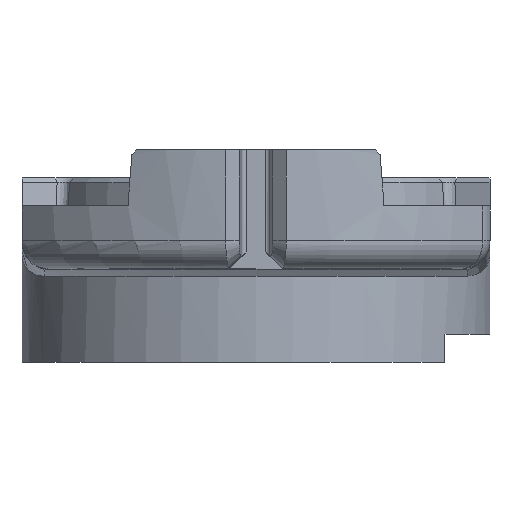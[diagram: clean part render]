
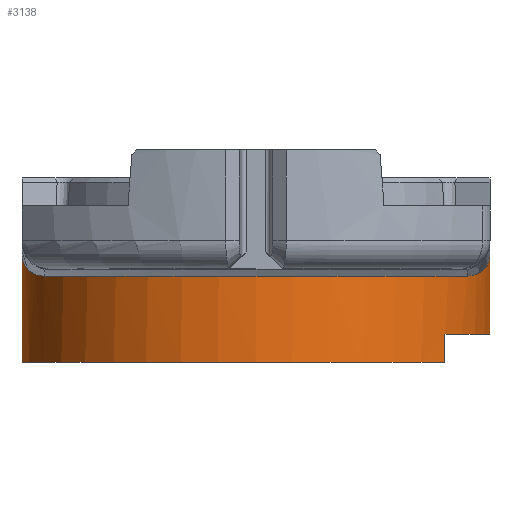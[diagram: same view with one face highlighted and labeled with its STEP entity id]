
A CAD part, left-side view. The second image highlights one B-rep face of the part: STEP entity #3138.
In plain terms, the highlighted cylindrical face has radius 25.15 mm (diameter 50.3 mm), a partial arc.
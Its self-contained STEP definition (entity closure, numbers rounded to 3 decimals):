
#425=CARTESIAN_POINT('',(201.971,34.953,-73.3));
#426=CARTESIAN_POINT('',(202.283,35.105,-73.3));
#427=CARTESIAN_POINT('',(202.877,35.379,-73.276));
#428=CARTESIAN_POINT('',(203.656,35.705,-73.203));
#429=CARTESIAN_POINT('',(204.359,35.973,-73.108));
#430=CARTESIAN_POINT('',(204.99,36.193,-73.));
#431=CARTESIAN_POINT('',(205.56,36.377,-72.887));
#432=CARTESIAN_POINT('',(206.075,36.53,-72.772));
#433=CARTESIAN_POINT('',(206.542,36.658,-72.657));
#434=CARTESIAN_POINT('',(206.966,36.767,-72.544));
#435=CARTESIAN_POINT('',(207.351,36.858,-72.434));
#436=CARTESIAN_POINT('',(207.701,36.936,-72.327));
#437=CARTESIAN_POINT('',(208.021,37.003,-72.224));
#438=CARTESIAN_POINT('',(208.312,37.06,-72.125));
#439=CARTESIAN_POINT('',(208.577,37.109,-72.029));
#440=CARTESIAN_POINT('',(208.818,37.15,-71.936));
#441=CARTESIAN_POINT('',(209.037,37.186,-71.847));
#442=CARTESIAN_POINT('',(209.236,37.217,-71.76));
#443=CARTESIAN_POINT('',(209.415,37.244,-71.676));
#444=CARTESIAN_POINT('',(209.575,37.266,-71.595));
#445=CARTESIAN_POINT('',(209.718,37.285,-71.515));
#446=CARTESIAN_POINT('',(209.845,37.302,-71.437));
#447=CARTESIAN_POINT('',(209.955,37.315,-71.359));
#448=CARTESIAN_POINT('',(210.048,37.326,-71.283));
#449=CARTESIAN_POINT('',(210.126,37.335,-71.206));
#450=CARTESIAN_POINT('',(210.186,37.342,-71.129));
#451=CARTESIAN_POINT('',(210.228,37.347,-71.053));
#452=CARTESIAN_POINT('',(210.253,37.35,-70.979));
#453=CARTESIAN_POINT('',(210.257,37.35,-70.932));
#454=CARTESIAN_POINT('',(210.257,37.35,-70.909));
#464=DIRECTION('',(0.,0.,-1.));
#465=VECTOR('',#464,8.591);
#466=CARTESIAN_POINT('',(210.257,-12.65,-70.909));
#467=LINE('',#466,#465);
#468=DIRECTION('',(0.,0.,-1.));
#469=VECTOR('',#468,3.);
#470=CARTESIAN_POINT('',(198.,-7.837,-79.5));
#471=LINE('',#470,#469);
#472=DIRECTION('',(0.,0.,1.));
#473=VECTOR('',#472,11.591);
#474=CARTESIAN_POINT('',(210.257,37.35,-82.5));
#475=LINE('',#474,#473);
#476=CARTESIAN_POINT('',(201.979,-10.257,-73.3));
#477=CARTESIAN_POINT('',(202.287,-10.407,-73.3));
#478=CARTESIAN_POINT('',(202.875,-10.678,-73.276));
#479=CARTESIAN_POINT('',(203.657,-11.004,-73.203));
#480=CARTESIAN_POINT('',(204.359,-11.272,-73.108));
#481=CARTESIAN_POINT('',(204.99,-11.493,-73.));
#482=CARTESIAN_POINT('',(205.56,-11.676,-72.887));
#483=CARTESIAN_POINT('',(206.075,-11.83,-72.772));
#484=CARTESIAN_POINT('',(206.543,-11.958,-72.657));
#485=CARTESIAN_POINT('',(206.966,-12.066,-72.544));
#486=CARTESIAN_POINT('',(207.351,-12.158,-72.434));
#487=CARTESIAN_POINT('',(207.702,-12.236,-72.327));
#488=CARTESIAN_POINT('',(208.021,-12.303,-72.224));
#489=CARTESIAN_POINT('',(208.312,-12.36,-72.125));
#490=CARTESIAN_POINT('',(208.577,-12.408,-72.029));
#491=CARTESIAN_POINT('',(208.819,-12.45,-71.936));
#492=CARTESIAN_POINT('',(209.037,-12.486,-71.847));
#493=CARTESIAN_POINT('',(209.236,-12.517,-71.76));
#494=CARTESIAN_POINT('',(209.415,-12.543,-71.676));
#495=CARTESIAN_POINT('',(209.575,-12.566,-71.595));
#496=CARTESIAN_POINT('',(209.718,-12.585,-71.515));
#497=CARTESIAN_POINT('',(209.845,-12.601,-71.437));
#498=CARTESIAN_POINT('',(209.955,-12.615,-71.359));
#499=CARTESIAN_POINT('',(210.048,-12.626,-71.283));
#500=CARTESIAN_POINT('',(210.126,-12.635,-71.206));
#501=CARTESIAN_POINT('',(210.186,-12.642,-71.129));
#502=CARTESIAN_POINT('',(210.228,-12.647,-71.053));
#503=CARTESIAN_POINT('',(210.253,-12.649,-70.979));
#504=CARTESIAN_POINT('',(210.257,-12.65,-70.932));
#505=CARTESIAN_POINT('',(210.257,-12.65,-70.909));
#887=CARTESIAN_POINT('',(213.,12.35,-82.5));
#888=DIRECTION('',(0.,0.,1.));
#889=DIRECTION('',(-0.109,0.994,0.));
#890=AXIS2_PLACEMENT_3D('',#887,#888,#889);
#892=CARTESIAN_POINT('',(213.,12.35,-82.5));
#893=DIRECTION('',(0.,0.,1.));
#894=DIRECTION('',(-1.,0.,0.));
#895=AXIS2_PLACEMENT_3D('',#892,#893,#894);
#941=CARTESIAN_POINT('',(213.,12.35,-79.5));
#942=DIRECTION('',(0.,0.,1.));
#943=DIRECTION('',(-0.596,-0.803,0.));
#944=AXIS2_PLACEMENT_3D('',#941,#942,#943);
#2110=CARTESIAN_POINT('',(213.,12.35,-73.3));
#2111=DIRECTION('',(0.,0.,-1.));
#2112=DIRECTION('',(-1.,0.,0.));
#2113=AXIS2_PLACEMENT_3D('',#2110,#2111,#2112);
#2125=CARTESIAN_POINT('',(213.,12.35,-73.3));
#2126=DIRECTION('',(0.,0.,-1.));
#2127=DIRECTION('',(-0.438,-0.899,0.));
#2128=AXIS2_PLACEMENT_3D('',#2125,#2126,#2127);
#2221=CARTESIAN_POINT('',(198.,-7.837,-82.5));
#2223=VERTEX_POINT('',#2221);
#2229=CARTESIAN_POINT('',(210.257,37.35,-82.5));
#2230=VERTEX_POINT('',#2229);
#2231=CARTESIAN_POINT('',(187.85,12.35,-82.5));
#2232=VERTEX_POINT('',#2231);
#2245=CARTESIAN_POINT('',(198.,-7.837,-79.5));
#2246=VERTEX_POINT('',#2245);
#2249=CARTESIAN_POINT('',(210.257,-12.65,
-70.909));
#2250=CARTESIAN_POINT('',(210.257,-12.65,-79.5));
#2251=VERTEX_POINT('',#2249);
#2252=VERTEX_POINT('',#2250);
#2253=CARTESIAN_POINT('',(210.257,37.35,-70.909));
#2254=VERTEX_POINT('',#2253);
#2255=VERTEX_POINT('',#425);
#2256=CARTESIAN_POINT('',(187.85,12.35,-73.3));
#2257=VERTEX_POINT('',#2256);
#2258=CARTESIAN_POINT('',(201.979,-10.257,-73.3));
#2259=VERTEX_POINT('',#2258);
#3112=CARTESIAN_POINT('',(213.,12.35,-97.5));
#3113=DIRECTION('',(0.,0.,1.));
#3114=DIRECTION('',(1.,0.,0.));
#3115=AXIS2_PLACEMENT_3D('',#3112,#3113,#3114);
#3116=CYLINDRICAL_SURFACE('',#3115,25.15);
#3118=ORIENTED_EDGE('',*,*,#3117,.T.);
#3120=ORIENTED_EDGE('',*,*,#3119,.F.);
#3122=ORIENTED_EDGE('',*,*,#3121,.T.);
#3124=ORIENTED_EDGE('',*,*,#3123,.F.);
#3126=ORIENTED_EDGE('',*,*,#3125,.F.);
#3128=ORIENTED_EDGE('',*,*,#3127,.T.);
#3129=ORIENTED_EDGE('',*,*,#3102,.F.);
#3131=ORIENTED_EDGE('',*,*,#3130,.F.);
#3133=ORIENTED_EDGE('',*,*,#3132,.F.);
#3135=ORIENTED_EDGE('',*,*,#3134,.T.);
#3136=EDGE_LOOP('',(#3118,#3120,#3122,#3124,#3126,#3128,#3129,#3131,#3133,
#3135));
#3137=FACE_OUTER_BOUND('',#3136,.F.);
#3138=ADVANCED_FACE('',(#3137),#3116,.T.);
#455=B_SPLINE_CURVE_WITH_KNOTS('',3,(#425,#426,#427,#428,#429,#430,#431,#432,
#433,#434,#435,#436,#437,#438,#439,#440,#441,#442,#443,#444,#445,#446,#447,#448,
#449,#450,#451,#452,#453,#454),.UNSPECIFIED.,.F.,.F.,(4,1,1,1,1,1,1,1,1,1,1,1,1,
1,1,1,1,1,1,1,1,1,1,1,1,1,1,4),(0.,0.037,0.074,
0.111,0.148,0.185,0.222,
0.259,0.296,0.333,0.37,
0.407,0.444,0.481,0.519,
0.556,0.593,0.63,0.667,
0.704,0.741,0.778,0.815,
0.852,0.889,0.926,0.963,1.),
.UNSPECIFIED.);
#506=B_SPLINE_CURVE_WITH_KNOTS('',3,(#476,#477,#478,#479,#480,#481,#482,#483,
#484,#485,#486,#487,#488,#489,#490,#491,#492,#493,#494,#495,#496,#497,#498,#499,
#500,#501,#502,#503,#504,#505),.UNSPECIFIED.,.F.,.F.,(4,1,1,1,1,1,1,1,1,1,1,1,1,
1,1,1,1,1,1,1,1,1,1,1,1,1,1,4),(0.,0.037,0.074,
0.111,0.148,0.185,0.222,
0.259,0.296,0.333,0.37,
0.407,0.444,0.481,0.519,
0.556,0.593,0.63,0.667,
0.704,0.741,0.778,0.815,
0.852,0.889,0.926,0.963,1.),
.UNSPECIFIED.);
#891=CIRCLE('',#890,25.15);
#896=CIRCLE('',#895,25.15);
#945=CIRCLE('',#944,25.15);
#2114=CIRCLE('',#2113,25.15);
#2129=CIRCLE('',#2128,25.15);
#3102=EDGE_CURVE('',#2255,#2254,#455,.T.);
#3117=EDGE_CURVE('',#2251,#2252,#467,.T.);
#3119=EDGE_CURVE('',#2246,#2252,#945,.T.);
#3121=EDGE_CURVE('',#2246,#2223,#471,.T.);
#3123=EDGE_CURVE('',#2232,#2223,#896,.T.);
#3125=EDGE_CURVE('',#2230,#2232,#891,.T.);
#3127=EDGE_CURVE('',#2230,#2254,#475,.T.);
#3130=EDGE_CURVE('',#2257,#2255,#2114,.T.);
#3132=EDGE_CURVE('',#2259,#2257,#2129,.T.);
#3134=EDGE_CURVE('',#2259,#2251,#506,.T.);
